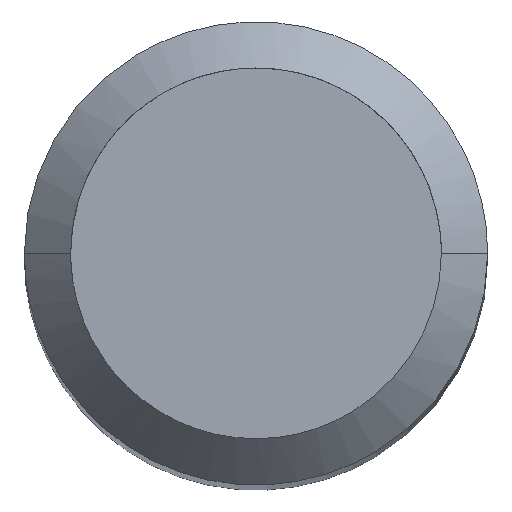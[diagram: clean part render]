
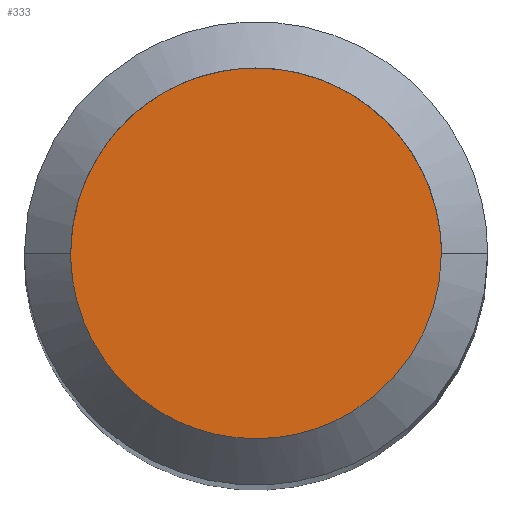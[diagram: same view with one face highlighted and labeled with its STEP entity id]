
A CAD part, top view. The second image highlights one B-rep face of the part: STEP entity #333.
In plain terms, the highlighted planar face has unit normal (0, 0, 1).
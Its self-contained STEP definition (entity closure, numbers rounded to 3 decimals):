
#30=PLANE($,#917);
#333=ADVANCED_FACE($,(#368),#30,.T.);
#368=FACE_OUTER_BOUND($,#406,.T.);
#406=EDGE_LOOP($,(#537));
#537=ORIENTED_EDGE($,*,*,#654,.F.);
#654=EDGE_CURVE($,#751,#751,#879,.T.);
#751=VERTEX_POINT($,#2568);
#879=B_SPLINE_CURVE_WITH_KNOTS($,3,(#2536,#2537,#2538,#2539,#2540,#2541,
#2542,#2543,#2544,#2545,#2546,#2547,#2548,#2549,#2550,#2551,#2552,#2553,
#2554,#2555,#2556,#2557,#2558,#2559,#2560,#2561,#2562,#2563,#2564,#2565,
#2566),.UNSPECIFIED.,.T.,.F.,(4,1,1,1,1,1,1,1,1,1,1,1,1,1,1,1,1,1,1,1,1,
1,1,1,1,1,1,1,4),(0.,1.331,2.742,3.968,
4.712,6.683,8.094,9.425,10.756,
12.167,13.393,14.137,16.107,17.519,
18.85,20.18,21.592,22.818,23.562,
25.532,26.943,28.274,29.605,31.016,
32.243,32.987,34.957,36.368,37.699),
.UNSPECIFIED.);
#917=AXIS2_PLACEMENT_3D($,#2567,#930,$);
#930=DIRECTION($,(0.,0.,1.));
#2536=CARTESIAN_POINT($,(5.984,-0.004,98.));
#2537=CARTESIAN_POINT($,(5.984,-0.448,98.));
#2538=CARTESIAN_POINT($,(5.882,-1.362,98.));
#2539=CARTESIAN_POINT($,(5.439,-2.618,98.));
#2540=CARTESIAN_POINT($,(4.838,-3.578,98.));
#2541=CARTESIAN_POINT($,(3.967,-4.565,98.));
#2542=CARTESIAN_POINT($,(2.833,-5.376,98.));
#2543=CARTESIAN_POINT($,(1.342,-5.902,98.));
#2544=CARTESIAN_POINT($,(-0.016,-6.054,98.));
#2545=CARTESIAN_POINT($,(-1.374,-5.902,98.));
#2546=CARTESIAN_POINT($,(-2.63,-5.459,98.));
#2547=CARTESIAN_POINT($,(-3.59,-4.858,98.));
#2548=CARTESIAN_POINT($,(-4.577,-3.987,98.));
#2549=CARTESIAN_POINT($,(-5.388,-2.854,98.));
#2550=CARTESIAN_POINT($,(-5.914,-1.362,98.));
#2551=CARTESIAN_POINT($,(-6.065,-0.004,98.));
#2552=CARTESIAN_POINT($,(-5.914,1.354,98.));
#2553=CARTESIAN_POINT($,(-5.471,2.609,98.));
#2554=CARTESIAN_POINT($,(-4.869,3.57,98.));
#2555=CARTESIAN_POINT($,(-3.998,4.557,98.));
#2556=CARTESIAN_POINT($,(-2.865,5.368,98.));
#2557=CARTESIAN_POINT($,(-1.373,5.894,98.));
#2558=CARTESIAN_POINT($,(-0.016,6.045,98.));
#2559=CARTESIAN_POINT($,(1.342,5.894,98.));
#2560=CARTESIAN_POINT($,(2.598,5.451,98.));
#2561=CARTESIAN_POINT($,(3.558,4.849,98.));
#2562=CARTESIAN_POINT($,(4.545,3.978,98.));
#2563=CARTESIAN_POINT($,(5.356,2.845,98.));
#2564=CARTESIAN_POINT($,(5.882,1.353,98.));
#2565=CARTESIAN_POINT($,(5.984,0.44,98.));
#2566=CARTESIAN_POINT($,(5.984,-0.004,98.));
#2567=CARTESIAN_POINT($,(-6.136,-6.124,98.));
#2568=CARTESIAN_POINT($,(5.984,-0.004,98.));
